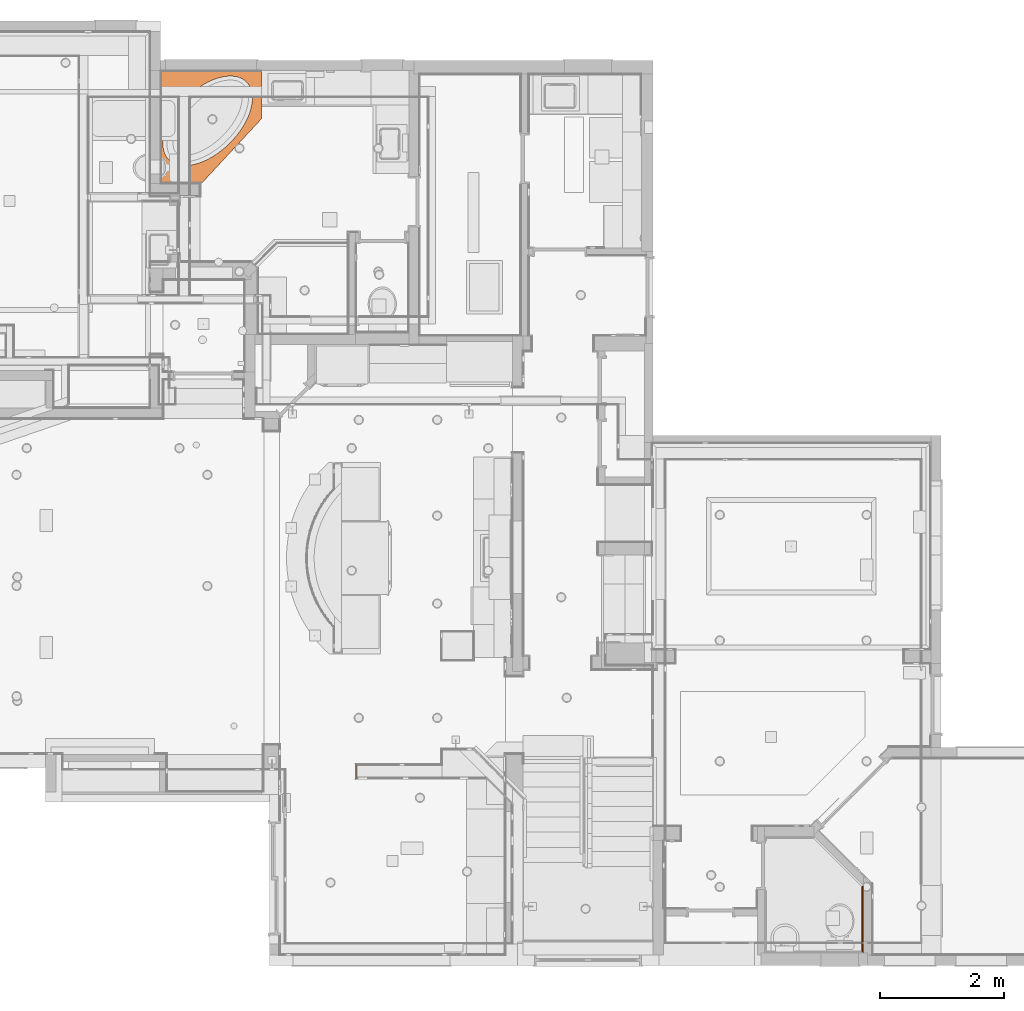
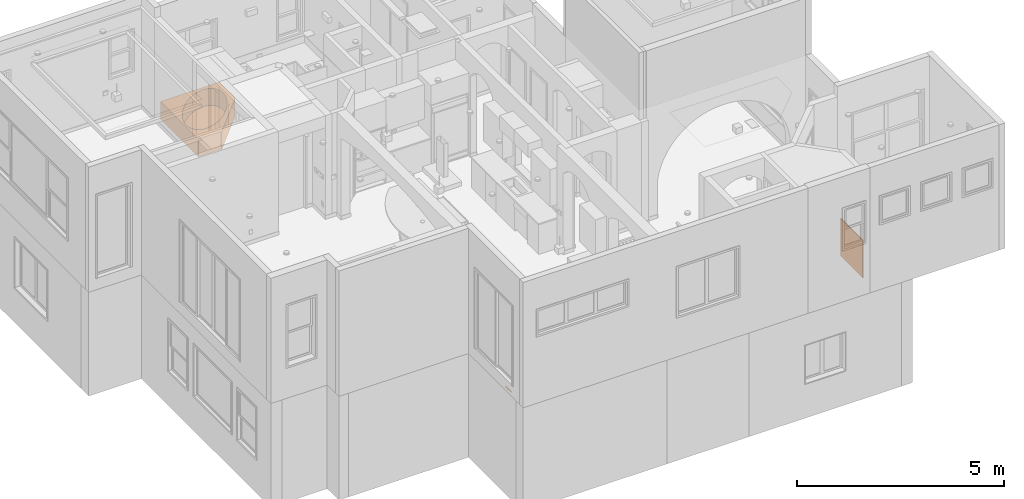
# One storey, part 60 of 60: 3 proxies.
"""IFC2X3 building model written with IfcOpenShell, lengths in feet."""

import ifcopenshell
import ifcopenshell.guid

model = None  # the IFC model being written
_history = None  # IfcOwnerHistory: only IFC2X3 demands one
_inside = {}  # id of a spatial element -> (the spatial element, [elements in it])
_under = {}  # id of a project, library or spatial element -> (it, [spatial elements below it])
_declared = {}  # id of a project -> (the project, [libraries it declares])
_typed = {}  # id of a type object -> (the type object, [elements of that type])
_made_of = {}  # id of a material, layer set ... -> (it, [elements and type objects made of it])


def new_model(schema):
    """Start an empty IFC model of exactly this schema.

    Asked for "IFC4X3", IfcOpenShell would pick the latest addendum, in which some entities
    have other attributes; the version numbers below select the first issue.
    IFC2X3 requires an IfcOwnerHistory on every rooted entity: one is made here for all.
    """
    global model, _history
    if schema == "IFC4X3":
        model = ifcopenshell.file(schema_version=(4, 3, 0, 0))
    else:
        model = ifcopenshell.file(schema=schema)
    _inside.clear()
    _under.clear()
    _declared.clear()
    _typed.clear()
    _made_of.clear()
    _history = None
    if model.schema == "IFC2X3":
        org = make("IfcOrganization", Name="unknown")
        user = make(
            "IfcPersonAndOrganization",
            ThePerson=make("IfcPerson", FamilyName="unknown"),
            TheOrganization=org,
        )
        app = make(
            "IfcApplication",
            ApplicationDeveloper=org,
            Version="unknown",
            ApplicationFullName="unknown",
            ApplicationIdentifier="unknown",
        )
        _history = make(
            "IfcOwnerHistory",
            OwningUser=user,
            OwningApplication=app,
            ChangeAction="ADDED",
            CreationDate=0,
        )
    return model


def make(cls, **values):
    """One entity of the class cls with the attributes given. An attribute that is None is left unset."""
    return model.create_entity(
        cls, **{name: value for name, value in values.items() if value is not None}
    )


def entity(cls, *values):
    """Any entity or typed value of the class cls, its attributes in the order of the schema. None: left unset."""
    e = model.create_entity(cls)
    for i, value in enumerate(values):
        if value is not None:
            e[i] = value
    return e


def rooted(cls, **values):
    """An entity with a GlobalId (a new one), such as an element, a storey or a relation."""
    return make(cls, GlobalId=ifcopenshell.guid.new(), OwnerHistory=_history, **values)


def si_unit(unit_type, name, prefix=None):
    """IfcSIUnit, for example si_unit("LENGTHUNIT", "METRE", prefix="MILLI")."""
    return make("IfcSIUnit", UnitType=unit_type, Prefix=prefix, Name=name)


def converted_unit(unit_type, name, factor, base, dimensions=None, offset=None):
    """IfcConversionBasedUnit, such as the inch: factor (a typed value) times the base unit."""
    return make(
        "IfcConversionBasedUnit"
        if offset is None
        else "IfcConversionBasedUnitWithOffset",
        ConversionOffset=offset,
        Dimensions=None
        if dimensions is None
        else entity("IfcDimensionalExponents", *dimensions),
        UnitType=unit_type,
        Name=name,
        ConversionFactor=make(
            "IfcMeasureWithUnit", ValueComponent=factor, UnitComponent=base
        ),
    )


def assignment(units):
    """IfcUnitAssignment: the units of a project."""
    return None if units is None else make("IfcUnitAssignment", Units=units)


def point(xyz):
    """IfcCartesianPoint."""
    return None if xyz is None else make("IfcCartesianPoint", Coordinates=xyz)


def direction(xyz):
    """IfcDirection."""
    return None if xyz is None else make("IfcDirection", DirectionRatios=xyz)


def frame(location, z_axis=None, x_axis=None):
    """IfcAxis2Placement3D, a coordinate frame: its origin and axes. An axis left out is left unset."""
    return make(
        "IfcAxis2Placement3D",
        Location=point(location),
        Axis=direction(z_axis),
        RefDirection=direction(x_axis),
    )


def origin():
    """The frame at (0, 0, 0) with its axes left unset."""
    return frame((0.0, 0.0, 0.0))


def place(relative_to, where):
    """IfcLocalPlacement: puts the frame where relative to a parent placement (None: the world)."""
    return make(
        "IfcLocalPlacement", PlacementRelTo=relative_to, RelativePlacement=where
    )


def context(
    kind, dimensions, precision=None, world=None, true_north=None, identifier=None
):
    """IfcGeometricRepresentationContext, for example the 3D "Model" context."""
    return make(
        "IfcGeometricRepresentationContext",
        ContextIdentifier=identifier,
        ContextType=kind,
        CoordinateSpaceDimension=dimensions,
        Precision=precision,
        WorldCoordinateSystem=world,
        TrueNorth=true_north,
    )


def subcontext(parent, identifier, kind, view, scale=None):
    """IfcGeometricRepresentationSubContext, for example "Body" below "Model"."""
    return make(
        "IfcGeometricRepresentationSubContext",
        ContextIdentifier=identifier,
        ContextType=kind,
        ParentContext=parent,
        TargetScale=scale,
        TargetView=view,
    )


def project(units=None, contexts=None):
    """IfcProject with its units and contexts."""
    return rooted(
        "IfcProject",
        Name="project",
        RepresentationContexts=contexts,
        UnitsInContext=assignment(units),
    )


def spatial(cls, under=None, at=None, **own):
    """A site, building, storey or space (cls), placed at a placement, below another one or the project."""
    s = rooted(cls, ObjectPlacement=at, **own)
    if under is not None:
        _under.setdefault(under.id(), (under, []))[1].append(s)
    return s


def faces_of(points, faces, orient=None, outer=None):
    """IfcFace entities. A face is a list of loops; a loop is a list of indices into points, from 0.

    orient and outer hold one flag for each loop. By default every Orientation is true, the
    first loop of a face is its IfcFaceOuterBound and the others are IfcFaceBound.
    """
    made = []
    for i, loops in enumerate(faces):
        bounds = []
        for j, loop in enumerate(loops):
            is_outer = j == 0 if outer is None else outer[i][j]
            bounds.append(
                make(
                    "IfcFaceOuterBound" if is_outer else "IfcFaceBound",
                    Bound=make("IfcPolyLoop", Polygon=[points[k] for k in loop]),
                    Orientation=True if orient is None else orient[i][j],
                )
            )
        made.append(make("IfcFace", Bounds=bounds))
    return made


def faceted_brep(points, faces, orient=None, outer=None, voids=None):
    """IfcFacetedBrep: a solid bounded by flat faces; with voids (closed shells), ...WithVoids."""
    shared = [point(p) for p in points]
    hull = make("IfcClosedShell", CfsFaces=faces_of(shared, faces, orient, outer))
    if voids is None:
        return make("IfcFacetedBrep", Outer=hull)
    return make(
        "IfcFacetedBrepWithVoids",
        Outer=hull,
        Voids=[
            make(cls, CfsFaces=faces_of(shared, fs, o, b)) for cls, fs, o, b in voids
        ],
    )


def shape(context_of_items, identifier, shape_type, items):
    """IfcShapeRepresentation: the items that make up one representation, for example the "Body"."""
    return make(
        "IfcShapeRepresentation",
        ContextOfItems=context_of_items,
        RepresentationIdentifier=identifier,
        RepresentationType=shape_type,
        Items=items,
    )


def source(mapping_origin, context_of_items, identifier, shape_type, items):
    """IfcRepresentationMap: a shape defined once, which mapped items show again and again."""
    return make(
        "IfcRepresentationMap",
        MappingOrigin=mapping_origin,
        MappedRepresentation=shape(context_of_items, identifier, shape_type, items),
    )


def transform(
    local_origin,
    x_axis=None,
    y_axis=None,
    z_axis=None,
    scale=None,
    scale2=None,
    scale3=None,
    uniform=True,
):
    """IfcCartesianTransformationOperator3D, or its non-uniform kind. x_axis, y_axis, z_axis: its Axis1, 2, 3."""
    if uniform:
        return make(
            "IfcCartesianTransformationOperator3D",
            Axis1=direction(x_axis),
            Axis2=direction(y_axis),
            LocalOrigin=point(local_origin),
            Scale=scale,
            Axis3=direction(z_axis),
        )
    return make(
        "IfcCartesianTransformationOperator3DnonUniform",
        Axis1=direction(x_axis),
        Axis2=direction(y_axis),
        LocalOrigin=point(local_origin),
        Scale=scale,
        Axis3=direction(z_axis),
        Scale2=scale2,
        Scale3=scale3,
    )


def mapped(mapping_source, mapping_target):
    """IfcMappedItem: shows the shape of a source again, moved by a transform."""
    return make(
        "IfcMappedItem", MappingSource=mapping_source, MappingTarget=mapping_target
    )


def material(Name=None, Category=None):
    """IfcMaterial."""
    return make("IfcMaterial", Name=Name, Category=Category)


def made_of(thing, what):
    """Note that an element or type object is made of a material, layer set ...; save() writes the relation."""
    if what is not None:
        _made_of.setdefault(what.id(), (what, []))[1].append(thing)
    return thing


def type_object(cls, material=None, **own):
    """A type object (cls), such as IfcWallType, which elements share."""
    return made_of(rooted(cls, **own), material)


def type_shapes(of_type, sources):
    """Give a type object the sources (RepresentationMaps) that its elements show as mapped items."""
    of_type.RepresentationMaps = sources


def element(
    cls,
    number,
    at=None,
    inside=None,
    cuts=None,
    type_object=None,
    material=None,
    context=None,
    identifier="Body",
    shape_type=None,
    held_by="IfcProductDefinitionShape",
    body=None,
    shapes=None,
    **own,
):
    """One element of the class cls, such as IfcWall. Its Tag is "e" and its number.

    at: its placement. inside: the storey or other place that contains it. cuts: it is an
    opening in that element (IfcRelVoidsElement). A single representation is given by context,
    identifier, shape_type and body (its items); several are given by shapes. held_by: the class
    of the entity that holds the representations. save() writes the other relations.
    """
    e = rooted(cls, Tag="e%d" % number, ObjectPlacement=at, **own)
    if body is not None:
        shapes = [shape(context, identifier, shape_type, body)]
    if shapes is not None:
        e.Representation = make(held_by, Representations=shapes)
    if inside is not None:
        _inside.setdefault(inside.id(), (inside, []))[1].append(e)
    if cuts is not None:
        rooted(
            "IfcRelVoidsElement", RelatingBuildingElement=cuts, RelatedOpeningElement=e
        )
    if type_object is not None:
        _typed.setdefault(type_object.id(), (type_object, []))[1].append(e)
    return made_of(e, material)


def aggregate(whole, parts):
    """IfcRelAggregates: a whole, such as a stair, and the parts it consists of."""
    return rooted("IfcRelAggregates", RelatingObject=whole, RelatedObjects=parts)


def save(model, path):
    """Write the relations noted so far, then the file.

    IfcRelAggregates (storeys below a building ...), IfcRelContainedInSpatialStructure (elements
    in a storey), IfcRelDefinesByType, IfcRelAssociatesMaterial and IfcRelDeclares: one each for
    every whole, place, type object, material and project.
    """
    for whole, parts in _under.values():
        aggregate(whole, parts)
    for where, things in _inside.values():
        rooted(
            "IfcRelContainedInSpatialStructure",
            RelatedElements=things,
            RelatingStructure=where,
        )
    for kind, things in _typed.values():
        rooted("IfcRelDefinesByType", RelatedObjects=things, RelatingType=kind)
    for what, things in _made_of.values():
        rooted("IfcRelAssociatesMaterial", RelatedObjects=things, RelatingMaterial=what)
    for by, libraries in _declared.values():
        rooted("IfcRelDeclares", RelatingContext=by, RelatedDefinitions=libraries)
    model.write(path)


model = new_model("IFC2X3")

# Units and contexts
model_context = context("Model", 3, precision=0.0001, world=origin(), true_north=direction((6.123031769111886e-17, 1.0)))
plan_context = context("Plan", 3, precision=0.0001, world=origin(), true_north=direction((6.123031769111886e-17, 1.0)))
body_context = subcontext(model_context, "Body", "Model", "MODEL_VIEW")
ifc_project = project(units=[converted_unit("LENGTHUNIT", "FOOT", entity("IfcLengthMeasure", 0.3048), si_unit("LENGTHUNIT", "METRE"), dimensions=[1, 0, 0, 0, 0, 0, 0]), converted_unit("AREAUNIT", "SQUARE FOOT", entity("IfcAreaMeasure", 0.09290304), si_unit("AREAUNIT", "SQUARE_METRE"), dimensions=[2, 0, 0, 0, 0, 0, 0]), converted_unit("PLANEANGLEUNIT", "DEGREE", entity("IfcPlaneAngleMeasure", 0.017453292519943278), si_unit("PLANEANGLEUNIT", "RADIAN"), dimensions=[0, 0, 0, 0, 0, 0, 0])], contexts=[model_context, plan_context])

# Site, building, storey
site_placement = place(None, origin())
site = spatial("IfcSite", under=ifc_project, at=site_placement, Name="Default", CompositionType="ELEMENT")
building_placement = place(site_placement, origin())
building = spatial("IfcBuilding", under=site, at=building_placement, CompositionType="ELEMENT")
storey_placement = place(building_placement, origin())
storey = spatial("IfcBuildingStorey", under=building, at=storey_placement, Name="First floor", CompositionType="ELEMENT", Elevation=0.0)

# Proxies
ifc_material = material(Name="Default New Material")
building_element_proxy_type_1 = type_object("IfcBuildingElementProxyType", Name="Generic Models 25:Generic Models 23", PredefinedType="NOTDEFINED", material=ifc_material)
shared_shape_1 = source(origin(), body_context, "Body", "Brep", [
    faceted_brep([(-5.770833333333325, 47.499654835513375, 12.416666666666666), (-3.2625001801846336, 46.88546922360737, 12.416666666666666), (-2.9868113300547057, 47.0105391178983, 12.416666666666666), (-3.5383320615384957, 46.732652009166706, 12.416666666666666), (-2.7149937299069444, 47.106170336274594, 12.416666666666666), (-2.450723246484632, 47.171069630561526, 12.416666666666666), (-2.1975736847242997, 47.20435934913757, 12.416666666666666), (-0.4166666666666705, 47.49965483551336, 12.416666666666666), (-3.8105768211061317, 46.55415406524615, 12.416666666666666), (-4.0755528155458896, 46.352389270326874, 12.416666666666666), (-4.329676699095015, 46.13008614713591, 12.416666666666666), (-4.569511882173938, 45.89025096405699, 12.416666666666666), (-4.791815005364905, 45.63612708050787, 12.416666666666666), (-4.993579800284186, 45.37115108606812, 12.416666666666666), (-5.172077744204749, 45.09890632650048, 12.416666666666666), (-5.324894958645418, 44.823074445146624, 12.416666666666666), (-5.449964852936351, 44.5473855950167, 12.416666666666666), (-5.545596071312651, 44.275567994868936, 12.416666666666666), (-5.610495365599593, 44.01129751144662, 12.416666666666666), (-5.643785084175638, 43.75814794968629, 12.416666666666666), (-5.770833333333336, 41.49965483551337, 12.416666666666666), (-5.645015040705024, 43.51954272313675, 12.416666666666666), (-5.61416860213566, 43.29870855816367, 12.416666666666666), (-5.551662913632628, 43.09863185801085, 12.416666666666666), (-5.45834325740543, 42.92201831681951, 12.416666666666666), (-5.335471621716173, 42.771256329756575, 12.416666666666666), (-5.184709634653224, 42.6483846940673, 12.416666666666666), (-5.008096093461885, 42.5550650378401, 12.416666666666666), (-4.808019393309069, 42.492559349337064, 12.416666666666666), (-4.587185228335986, 42.4617129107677, 12.416666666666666), (-3.6874999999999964, 41.49965483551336, 12.416666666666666), (-4.348580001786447, 42.46294286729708, 12.416666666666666), (-4.0954304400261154, 42.49623258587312, 12.416666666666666), (-3.831159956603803, 42.56113188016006, 12.416666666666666), (-3.5593423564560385, 42.65676309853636, 12.416666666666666), (-3.2836535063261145, 42.78183299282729, 12.416666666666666), (-3.0078216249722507, 42.93465020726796, 12.416666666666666), (-2.7355768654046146, 43.11314815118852, 12.416666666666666), (-3.6874999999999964, 41.416321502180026, 12.416666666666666), (-2.4706008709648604, 43.314912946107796, 12.416666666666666), (-2.2164769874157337, 43.53721606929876, 12.416666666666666), (-0.4166666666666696, 44.937154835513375, 12.416666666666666), (-0.9011386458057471, 46.14775949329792, 12.416666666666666), (-0.9023686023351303, 45.90915426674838, 12.416666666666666), (-0.9356583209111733, 45.65600470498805, 12.416666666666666), (-1.0005576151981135, 45.391734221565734, 12.416666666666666), (-1.09618883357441, 45.11991662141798, 12.416666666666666), (-1.221258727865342, 44.84422777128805, 12.416666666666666), (-1.3740759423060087, 44.56839588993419, 12.416666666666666), (-1.5525738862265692, 44.29615113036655, 12.416666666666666), (-1.976641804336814, 43.777051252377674, 12.416666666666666), (-1.7543386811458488, 44.0311751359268, 12.416666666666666), (-1.9589684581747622, 47.20558930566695, 12.416666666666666), (-1.7381342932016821, 47.17474286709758, 12.416666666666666), (-1.538057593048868, 47.11223717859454, 12.416666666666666), (-1.3614440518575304, 47.01891752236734, 12.416666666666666), (-1.2106820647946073, 46.89604588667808, 12.416666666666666), (-1.0878104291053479, 46.74528389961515, 12.416666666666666), (-0.994490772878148, 46.56867035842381, 12.416666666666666), (-0.9319850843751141, 46.368593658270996, 12.416666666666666), (-3.687499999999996, 41.49965483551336, 10.666666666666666), (-5.770833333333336, 41.49965483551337, 10.666666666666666), (-5.770833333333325, 47.499654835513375, 10.666666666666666), (-0.4166666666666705, 47.49965483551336, 10.666666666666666), (-0.4166666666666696, 44.937154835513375, 10.666666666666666), (-3.64583333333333, 41.461172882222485, 10.666666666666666), (-3.6458333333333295, 41.49965483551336, 10.666666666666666), (-3.6874999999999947, 41.416321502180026, 11.0), (-3.645833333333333, 41.461172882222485, 11.0), (-3.2836535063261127, 42.78183299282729, 10.79166666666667), (-3.0078216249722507, 42.93465020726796, 10.79166666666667), (-2.735576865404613, 43.11314815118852, 10.79166666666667), (-2.4706008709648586, 43.314912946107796, 10.79166666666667), (-2.2164769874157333, 43.53721606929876, 10.79166666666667), (-1.9766418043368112, 43.77705125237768, 10.79166666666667), (-1.754338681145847, 44.0311751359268, 10.79166666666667), (-1.5525738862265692, 44.29615113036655, 10.79166666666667), (-1.374075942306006, 44.56839588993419, 10.79166666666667), (-1.2212587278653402, 44.844227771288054, 10.79166666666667), (-1.0961888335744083, 45.11991662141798, 10.79166666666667), (-1.0005576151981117, 45.391734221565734, 10.79166666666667), (-0.9356583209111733, 45.65600470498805, 10.79166666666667), (-0.9023686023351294, 45.90915426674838, 10.79166666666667), (-0.9011386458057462, 46.14775949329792, 10.79166666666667), (-0.9319850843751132, 46.368593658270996, 10.79166666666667), (-0.9944907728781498, 46.568670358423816, 10.79166666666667), (-1.0878104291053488, 46.74528389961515, 10.79166666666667), (-1.2106820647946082, 46.89604588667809, 10.79166666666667), (-1.361444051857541, 47.018917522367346, 10.79166666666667), (-1.53805759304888, 47.11223717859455, 10.79166666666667), (-1.7381342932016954, 47.17474286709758, 10.79166666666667), (-1.9589684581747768, 47.20558930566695, 10.79166666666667), (-2.197573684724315, 47.20435934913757, 10.79166666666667), (-2.450723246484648, 47.171069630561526, 10.79166666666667), (-2.7149937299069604, 47.10617033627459, 10.79166666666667), (-2.9868113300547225, 47.01053911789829, 10.79166666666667), (-3.2625001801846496, 46.88546922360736, 10.79166666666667), (-3.5383320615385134, 46.7326520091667, 10.79166666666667), (-3.8105768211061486, 46.55415406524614, 10.79166666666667), (-4.075552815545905, 46.35238927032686, 10.79166666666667), (-4.329676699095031, 46.1300861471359, 10.79166666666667), (-4.569511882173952, 45.890250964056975, 10.79166666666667), (-4.791815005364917, 45.636127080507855, 10.79166666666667), (-4.993579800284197, 45.3711510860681, 10.79166666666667), (-5.172077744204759, 45.09890632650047, 10.79166666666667), (-5.324894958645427, 44.8230744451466, 10.79166666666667), (-5.449964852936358, 44.54738559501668, 10.79166666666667), (-5.545596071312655, 44.27556799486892, 10.79166666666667), (-5.610495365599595, 44.01129751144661, 10.79166666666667), (-5.64378508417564, 43.758147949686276, 10.79166666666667), (-5.645015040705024, 43.51954272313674, 10.79166666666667), (-5.614168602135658, 43.29870855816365, 10.79166666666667), (-5.551662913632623, 43.09863185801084, 10.79166666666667), (-5.458343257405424, 42.9220183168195, 10.79166666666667), (-5.335471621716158, 42.77125632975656, 10.79166666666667), (-5.184709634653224, 42.6483846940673, 10.79166666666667), (-5.008096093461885, 42.5550650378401, 10.79166666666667), (-4.808019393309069, 42.492559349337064, 10.79166666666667), (-4.587185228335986, 42.4617129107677, 10.79166666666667), (-4.348580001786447, 42.46294286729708, 10.79166666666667), (-4.0954304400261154, 42.49623258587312, 10.79166666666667), (-3.831159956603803, 42.56113188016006, 10.79166666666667), (-3.5593423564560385, 42.65676309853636, 10.79166666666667), (-0.9593233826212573, 46.47140269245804, 11.604166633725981), (-4.061586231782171, 42.50290526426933, 11.604166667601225), (-0.8977349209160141, 46.030481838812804, 11.604166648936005), (-1.061605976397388, 46.703385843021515, 11.525315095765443), (-1.210682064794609, 46.89604588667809, 11.451982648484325), (-0.9295217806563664, 45.68966038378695, 11.604166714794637), (-1.0446029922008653, 45.25654090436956, 11.604166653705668), (-1.2943195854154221, 44.70609603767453, 11.604166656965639), (-1.8631047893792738, 43.90253790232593, 11.60416666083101), (-1.5279676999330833, 44.331254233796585, 11.604166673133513), (-2.1843785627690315, 43.56750878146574, 11.604166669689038), (-2.601953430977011, 43.211285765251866, 11.604166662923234), (-3.145521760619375, 42.85489385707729, 11.604166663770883), (-3.695966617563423, 42.60517726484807, 11.604166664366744), (-5.142811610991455, 42.622180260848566, 11.525314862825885), (-4.469907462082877, 42.45830918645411, 11.604166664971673), (-4.910828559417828, 42.51989768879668, 11.604166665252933), (-5.335471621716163, 42.77125632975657, 11.451982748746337), (-5.5868303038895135, 43.19589952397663, 11.604166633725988), (-2.484567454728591, 47.16439695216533, 11.604166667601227), (-5.648418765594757, 43.636820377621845, 11.604166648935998), (-5.484547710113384, 42.96391637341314, 11.525315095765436), (-5.616631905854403, 43.977641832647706, 11.60416671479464), (-5.501550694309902, 44.410761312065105, 11.604166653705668), (-5.251834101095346, 44.96120617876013, 11.604166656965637), (-4.68304889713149, 45.76476431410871, 11.604166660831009), (-5.0181859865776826, 45.336047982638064, 11.604166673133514), (-4.3617751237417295, 46.09979343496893, 11.604166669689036), (-3.944200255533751, 46.45601645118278, 11.604166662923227), (-3.400631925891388, 46.81240835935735, 11.604166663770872), (-2.8501870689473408, 47.06212495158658, 11.604166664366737), (-1.403342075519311, 47.045121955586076, 11.525314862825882), (-2.076246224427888, 47.20899302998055, 11.604166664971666), (-1.6353251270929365, 47.14740452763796, 11.604166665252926), (-3.64583333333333, 41.49965483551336, 11.0), (-3.6874999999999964, 41.49965483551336, 11.0)], [[[0, 1, 2]], [[1, 0, 3]], [[0, 2, 4]], [[4, 5, 0]], [[6, 0, 5]], [[0, 6, 7]], [[8, 3, 0]], [[8, 0, 9]], [[10, 9, 0]], [[11, 10, 0]], [[12, 11, 0]], [[12, 0, 13]], [[14, 13, 0]], [[0, 15, 14]], [[16, 15, 0]], [[16, 0, 17]], [[18, 17, 0]], [[19, 18, 0]], [[19, 0, 20]], [[21, 19, 20]], [[22, 21, 20]], [[23, 22, 20]], [[24, 23, 20]], [[20, 25, 24]], [[25, 20, 26]], [[27, 26, 20]], [[27, 20, 28]], [[29, 28, 20]], [[29, 20, 30]], [[30, 31, 29]], [[32, 31, 30]], [[30, 33, 32]], [[30, 34, 33]], [[34, 30, 35]], [[36, 35, 30]], [[37, 36, 30]], [[30, 38, 37]], [[39, 37, 38]], [[40, 39, 38]], [[38, 41, 40]], [[42, 41, 7]], [[43, 41, 42]], [[41, 43, 44]], [[44, 45, 41]], [[45, 46, 41]], [[46, 47, 41]], [[47, 48, 41]], [[48, 49, 41]], [[40, 41, 50]], [[50, 41, 51]], [[51, 41, 49]], [[7, 6, 52]], [[53, 7, 52]], [[53, 54, 7]], [[54, 55, 7]], [[56, 7, 55]], [[7, 56, 57]], [[57, 58, 7]], [[7, 58, 59]], [[42, 7, 59]], [[60, 61, 62, 63, 64, 65, 66]], [[20, 0, 62, 61]], [[41, 38, 67, 68, 65, 64]], [[7, 41, 64, 63]], [[0, 7, 63, 62]], [[69, 70, 71, 72, 73, 74, 75, 76, 77, 78, 79, 80, 81, 82, 83, 84, 85, 86, 87, 88, 89, 90, 91, 92, 93, 94, 95, 96, 97, 98, 99, 100, 101, 102, 103, 104, 105, 106, 107, 108, 109, 110, 111, 112, 113, 114, 115, 116, 117, 118, 119, 120, 121, 122]], [[123, 85, 84]], [[33, 124, 32]], [[58, 123, 59]], [[83, 125, 123]], [[126, 127, 86]], [[82, 125, 83]], [[83, 123, 84]], [[126, 57, 127]], [[125, 82, 128]], [[85, 123, 126]], [[82, 81, 128]], [[123, 125, 42]], [[129, 80, 79]], [[80, 129, 128]], [[130, 78, 77]], [[129, 79, 78]], [[75, 74, 131]], [[128, 45, 44]], [[77, 76, 132]], [[131, 132, 75]], [[130, 47, 46]], [[130, 129, 78]], [[74, 73, 133]], [[132, 130, 77]], [[134, 71, 70, 135]], [[57, 56, 127]], [[87, 86, 127]], [[59, 123, 42]], [[135, 69, 122, 136]], [[116, 115, 137]], [[138, 118, 117, 139]], [[128, 43, 125]], [[121, 120, 124]], [[26, 140, 25]], [[140, 115, 114]], [[43, 42, 125]], [[57, 126, 58]], [[129, 45, 128]], [[45, 129, 46]], [[116, 137, 139]], [[126, 123, 58]], [[48, 132, 49]], [[129, 130, 46]], [[47, 130, 48]], [[48, 130, 132]], [[50, 133, 40]], [[51, 132, 131]], [[43, 128, 44]], [[51, 131, 50]], [[131, 74, 133]], [[132, 51, 49]], [[133, 39, 40]], [[72, 71, 134]], [[134, 133, 72]], [[70, 69, 135]], [[135, 36, 37, 134]], [[122, 121, 136]], [[136, 34, 35, 135]], [[124, 31, 32]], [[139, 28, 29, 138]], [[27, 139, 137]], [[26, 137, 140]], [[119, 118, 138]], [[138, 124, 119]], [[117, 116, 139]], [[128, 81, 80]], [[132, 76, 75]], [[133, 73, 72]], [[115, 140, 137]], [[124, 120, 119]], [[136, 121, 124]], [[134, 39, 133]], [[37, 39, 134]], [[35, 36, 135]], [[34, 136, 33]], [[136, 124, 33]], [[31, 124, 138]], [[31, 138, 29]], [[139, 27, 28]], [[85, 126, 86]], [[27, 137, 26]], [[50, 131, 133]], [[141, 112, 111]], [[4, 142, 5]], [[23, 141, 22]], [[110, 143, 141]], [[144, 140, 113]], [[109, 143, 110]], [[110, 141, 111]], [[144, 24, 140]], [[143, 109, 145]], [[112, 141, 144]], [[109, 108, 145]], [[141, 143, 21]], [[146, 107, 106]], [[107, 146, 145]], [[147, 105, 104]], [[146, 106, 105]], [[102, 101, 148]], [[145, 17, 18]], [[104, 103, 149]], [[148, 149, 102]], [[147, 15, 16]], [[147, 146, 105]], [[101, 100, 150]], [[149, 147, 104]], [[151, 98, 97, 152]], [[24, 25, 140]], [[114, 113, 140]], [[22, 141, 21]], [[152, 96, 95, 153]], [[89, 88, 154]], [[155, 91, 90, 156]], [[145, 19, 143]], [[94, 93, 142]], [[55, 127, 56]], [[127, 88, 87]], [[19, 21, 143]], [[24, 144, 23]], [[146, 17, 145]], [[17, 146, 16]], [[89, 154, 156]], [[144, 141, 23]], [[14, 149, 13]], [[146, 147, 16]], [[15, 147, 14]], [[14, 147, 149]], [[11, 150, 10]], [[12, 149, 148]], [[19, 145, 18]], [[12, 148, 11]], [[148, 101, 150]], [[149, 12, 13]], [[150, 9, 10]], [[99, 98, 151]], [[151, 150, 99]], [[97, 96, 152]], [[152, 3, 8, 151]], [[95, 94, 153]], [[153, 2, 1, 152]], [[142, 6, 5]], [[156, 53, 52, 155]], [[54, 156, 154]], [[55, 154, 127]], [[92, 91, 155]], [[155, 142, 92]], [[90, 89, 156]], [[145, 108, 107]], [[149, 103, 102]], [[150, 100, 99]], [[88, 127, 154]], [[142, 93, 92]], [[153, 94, 142]], [[151, 9, 150]], [[8, 9, 151]], [[1, 3, 152]], [[2, 153, 4]], [[153, 142, 4]], [[6, 142, 155]], [[6, 155, 52]], [[156, 54, 53]], [[112, 144, 113]], [[54, 154, 55]], [[11, 148, 150]], [[20, 61, 60, 66, 157, 158, 30]], [[38, 30, 158, 67]], [[66, 65, 68, 157]], [[158, 157, 68, 67]]]),
])
type_shapes(building_element_proxy_type_1, [shared_shape_1])
proxy_1_placement = place(storey_placement, origin())
element("IfcBuildingElementProxy", 1, at=proxy_1_placement, inside=storey, type_object=building_element_proxy_type_1, material=ifc_material, Name="Generic Models 25:Generic Models 23", ObjectType="Generic Models 25:Generic Models 23", context=body_context, shape_type="MappedRepresentation", body=[
    mapped(shared_shape_1, transform((0.0, 0.0, 0.0), scale=1.0)),
])
building_element_proxy_type_2 = type_object("IfcBuildingElementProxyType", Name="C_Wall Board:C_Wall Board", PredefinedType="NOTDEFINED", material=ifc_material)
shared_shape_2 = source(origin(), body_context, "Body", "Brep", [
    faceted_brep([(3.5530032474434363, 0.0, 3.6666666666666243), (3.553003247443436, 0.0, 0.0), (0.0, 0.0, 0.0), (0.0, 0.0, 3.6666666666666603), (3.469669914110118, -0.08333333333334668, 3.6666666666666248), (0.03451779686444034, -0.08333333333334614, 3.66666666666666), (3.469669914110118, -0.08333333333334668, 3.4999999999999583), (3.51133658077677, -0.04166666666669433, 3.499999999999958), (3.5113365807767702, -0.041666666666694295, 0.0), (0.017258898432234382, -0.04166666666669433, 0.0), (0.017258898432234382, -0.04166666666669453, 3.499999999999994), (0.03451779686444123, -0.08333333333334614, 3.4999999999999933)], [[[0, 1, 2, 3]], [[4, 0, 3, 5]], [[1, 0, 4, 6, 7, 8]], [[3, 2, 9, 10, 11, 5]], [[8, 7, 10, 9]], [[1, 8, 9, 2]], [[6, 4, 5, 11]], [[7, 6, 11, 10]]]),
])
type_shapes(building_element_proxy_type_2, [shared_shape_2])
proxy_2_placement = place(storey_placement, frame((31.541666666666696, 4.219669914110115, 10.666666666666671), z_axis=(0.0, 0.0, 1.0), x_axis=(0.0, -1.0, 0.0)))
element("IfcBuildingElementProxy", 2, at=proxy_2_placement, inside=storey, type_object=building_element_proxy_type_2, material=ifc_material, Name="C_Wall Board:C_Wall Board", ObjectType="C_Wall Board:C_Wall Board", context=body_context, shape_type="MappedRepresentation", body=[
    mapped(shared_shape_2, transform((0.0, 0.0, 0.0), scale=1.0)),
])
building_element_proxy_type_3 = type_object("IfcBuildingElementProxyType", Name="C_Ceiling Plinth:C_Ceiling Plinth", PredefinedType="NOTDEFINED", material=ifc_material)
shared_shape_3 = source(origin(), body_context, "Body", "Brep", [
    faceted_brep([(0.6666666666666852, 0.0, 0.0), (0.0, 0.0, 0.0), (0.0, 0.0, -0.12500000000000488), (0.6666666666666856, 0.0, -0.1250000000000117), (0.75000000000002, 0.08333333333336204, 0.0), (-0.08333333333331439, 0.08333333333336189, 0.0)], [[[0, 1, 2, 3]], [[4, 5, 1, 0]], [[3, 2, 5, 4]], [[3, 4, 0]], [[1, 5, 2]]]),
])
type_shapes(building_element_proxy_type_3, [shared_shape_3])
proxy_3_placement = place(storey_placement, frame((4.6506343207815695, 9.958391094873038, 3.500000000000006), z_axis=(0.0, 0.0, 1.0), x_axis=(0.0, 1.0, 0.0)))
element("IfcBuildingElementProxy", 3, at=proxy_3_placement, inside=storey, type_object=building_element_proxy_type_3, material=ifc_material, Name="C_Ceiling Plinth:C_Ceiling Plinth", ObjectType="C_Ceiling Plinth:C_Ceiling Plinth", context=body_context, shape_type="MappedRepresentation", body=[
    mapped(shared_shape_3, transform((0.0, 0.0, 0.0), scale=1.0)),
])

save(model, "model.ifc")
